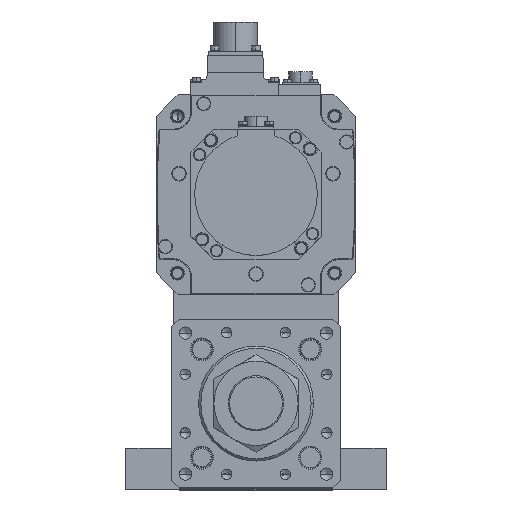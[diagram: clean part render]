
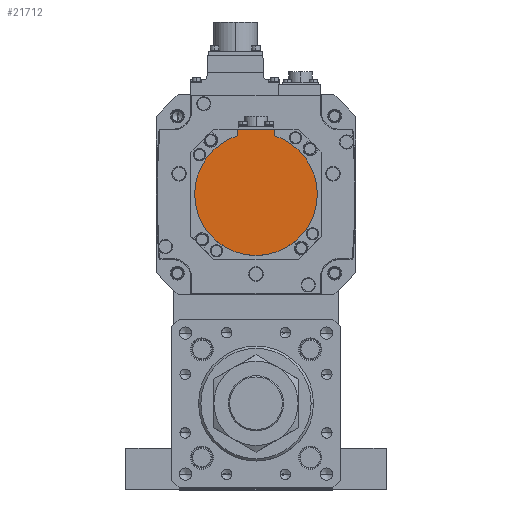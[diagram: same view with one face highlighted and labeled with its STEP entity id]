
A CAD part, top view. The second image highlights one B-rep face of the part: STEP entity #21712.
In plain terms, the highlighted planar face has unit normal (0, 0, 1) as drawn and (0, 0, -1) by its records, which use the part's own axes.
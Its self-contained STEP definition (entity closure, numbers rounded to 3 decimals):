
#2597 = CIRCLE ( 'NONE', #24521, 40. ) ;
#2849 = EDGE_CURVE ( 'NONE', #14469, #8743, #2597, .T. ) ;
#4408 = ORIENTED_EDGE ( 'NONE', *, *, #18793, .T. ) ;
#4701 = CARTESIAN_POINT ( 'NONE',  ( -12., -42.5, -167. ) ) ;
#5624 = DIRECTION ( 'NONE',  ( 0., 0., 1. ) ) ;
#6073 = CARTESIAN_POINT ( 'NONE',  ( 40., 0., -167. ) ) ;
#6795 = ORIENTED_EDGE ( 'NONE', *, *, #22831, .F. ) ;
#7807 = VECTOR ( 'NONE', #29501, 1000. ) ;
#8050 = CIRCLE ( 'NONE', #11467, 40. ) ;
#8131 = PLANE ( 'NONE',  #13846 ) ;
#8438 = CARTESIAN_POINT ( 'NONE',  ( 0., 0., -167. ) ) ;
#8743 = VERTEX_POINT ( 'NONE', #11724 ) ;
#8786 = AXIS2_PLACEMENT_3D ( 'NONE', #8438, #5624, #28781 ) ;
#8967 = CARTESIAN_POINT ( 'NONE',  ( -40., 0., -167. ) ) ;
#9332 = DIRECTION ( 'NONE',  ( 1., 0., 0. ) ) ;
#9541 = CARTESIAN_POINT ( 'NONE',  ( 12., -1.249, -167. ) ) ;
#10572 = LINE ( 'NONE', #9541, #26526 ) ;
#10766 = VECTOR ( 'NONE', #24874, 1000. ) ;
#11467 = AXIS2_PLACEMENT_3D ( 'NONE', #23729, #18024, #9332 ) ;
#11724 = CARTESIAN_POINT ( 'NONE',  ( -12., -38.158, -167. ) ) ;
#12029 = CARTESIAN_POINT ( 'NONE',  ( 12., -42.5, -167. ) ) ;
#12476 = DIRECTION ( 'NONE',  ( 0., 1., 0. ) ) ;
#13846 = AXIS2_PLACEMENT_3D ( 'NONE', #22500, #31575, #37193 ) ;
#14096 = EDGE_LOOP ( 'NONE', ( #4408, #18299, #6795, #23318, #36228, #21826 ) ) ;
#14469 = VERTEX_POINT ( 'NONE', #8967 ) ;
#15537 = LINE ( 'NONE', #29366, #7807 ) ;
#18024 = DIRECTION ( 'NONE',  ( 0., 0., 1. ) ) ;
#18299 = ORIENTED_EDGE ( 'NONE', *, *, #2849, .F. ) ;
#18793 = EDGE_CURVE ( 'NONE', #23335, #8743, #36777, .T. ) ;
#21712 = ADVANCED_FACE ( 'NONE', ( #34258 ), #8131, .F. ) ;
#21826 = ORIENTED_EDGE ( 'NONE', *, *, #34095, .T. ) ;
#22500 = CARTESIAN_POINT ( 'NONE',  ( 0., -1.249, -167. ) ) ;
#22831 = EDGE_CURVE ( 'NONE', #26339, #14469, #27759, .T. ) ;
#23318 = ORIENTED_EDGE ( 'NONE', *, *, #30040, .F. ) ;
#23335 = VERTEX_POINT ( 'NONE', #4701 ) ;
#23729 = CARTESIAN_POINT ( 'NONE',  ( 0., 0., -167. ) ) ;
#23916 = VERTEX_POINT ( 'NONE', #27571 ) ;
#24521 = AXIS2_PLACEMENT_3D ( 'NONE', #30380, #36274, #30630 ) ;
#24874 = DIRECTION ( 'NONE',  ( 0., 1., 0. ) ) ;
#26339 = VERTEX_POINT ( 'NONE', #6073 ) ;
#26526 = VECTOR ( 'NONE', #12476, 1000. ) ;
#27571 = CARTESIAN_POINT ( 'NONE',  ( 12., -38.158, -167. ) ) ;
#27759 = CIRCLE ( 'NONE', #8786, 40. ) ;
#28781 = DIRECTION ( 'NONE',  ( 1., 0., 0. ) ) ;
#29366 = CARTESIAN_POINT ( 'NONE',  ( 0., -42.5, -167. ) ) ;
#29501 = DIRECTION ( 'NONE',  ( -1., 0., 0. ) ) ;
#30040 = EDGE_CURVE ( 'NONE', #23916, #26339, #8050, .T. ) ;
#30380 = CARTESIAN_POINT ( 'NONE',  ( 0., 0., -167. ) ) ;
#30581 = CARTESIAN_POINT ( 'NONE',  ( -12., -40.329, -167. ) ) ;
#30630 = DIRECTION ( 'NONE',  ( 1., 0., 0. ) ) ;
#31575 = DIRECTION ( 'NONE',  ( 0., 0., 1. ) ) ;
#33501 = EDGE_CURVE ( 'NONE', #36436, #23916, #10572, .T. ) ;
#34095 = EDGE_CURVE ( 'NONE', #36436, #23335, #15537, .T. ) ;
#34258 = FACE_OUTER_BOUND ( 'NONE', #14096, .T. ) ;
#36228 = ORIENTED_EDGE ( 'NONE', *, *, #33501, .F. ) ;
#36274 = DIRECTION ( 'NONE',  ( 0., 0., 1. ) ) ;
#36436 = VERTEX_POINT ( 'NONE', #12029 ) ;
#36777 = LINE ( 'NONE', #30581, #10766 ) ;
#37193 = DIRECTION ( 'NONE',  ( 1., 0., 0. ) ) ;
